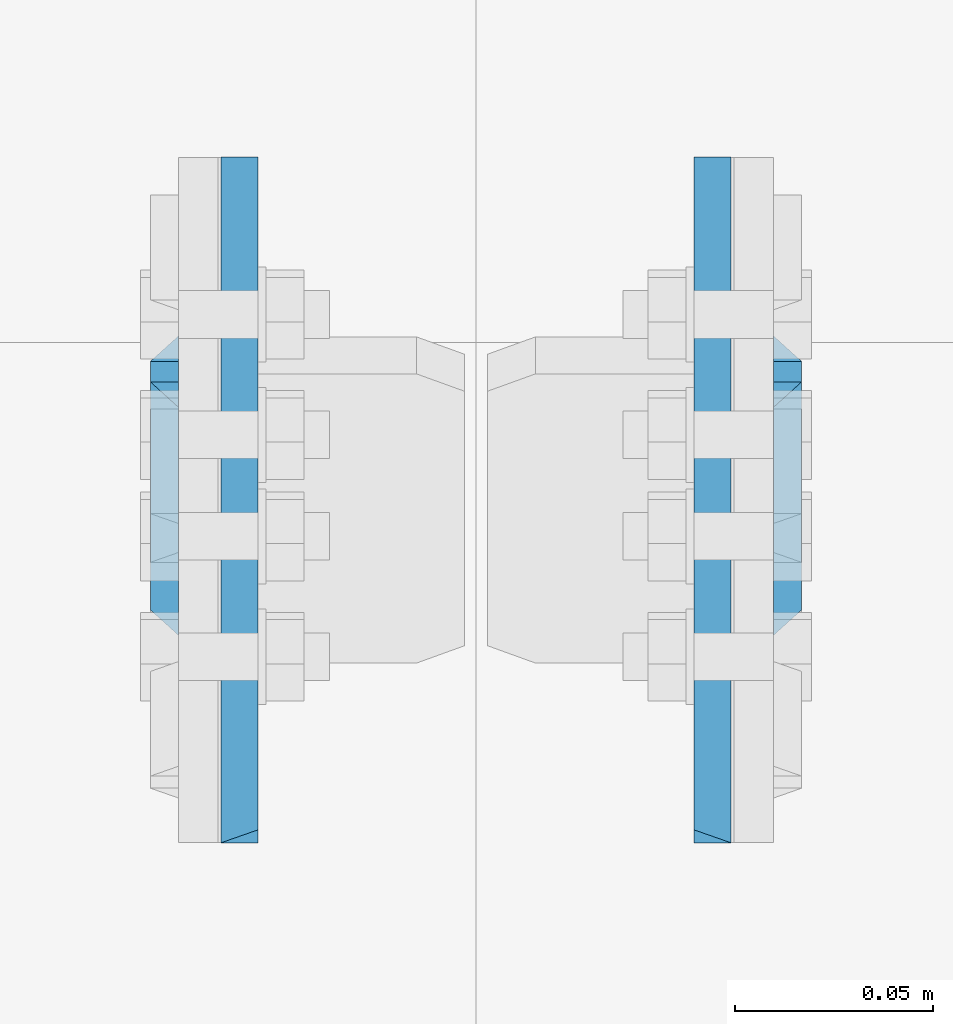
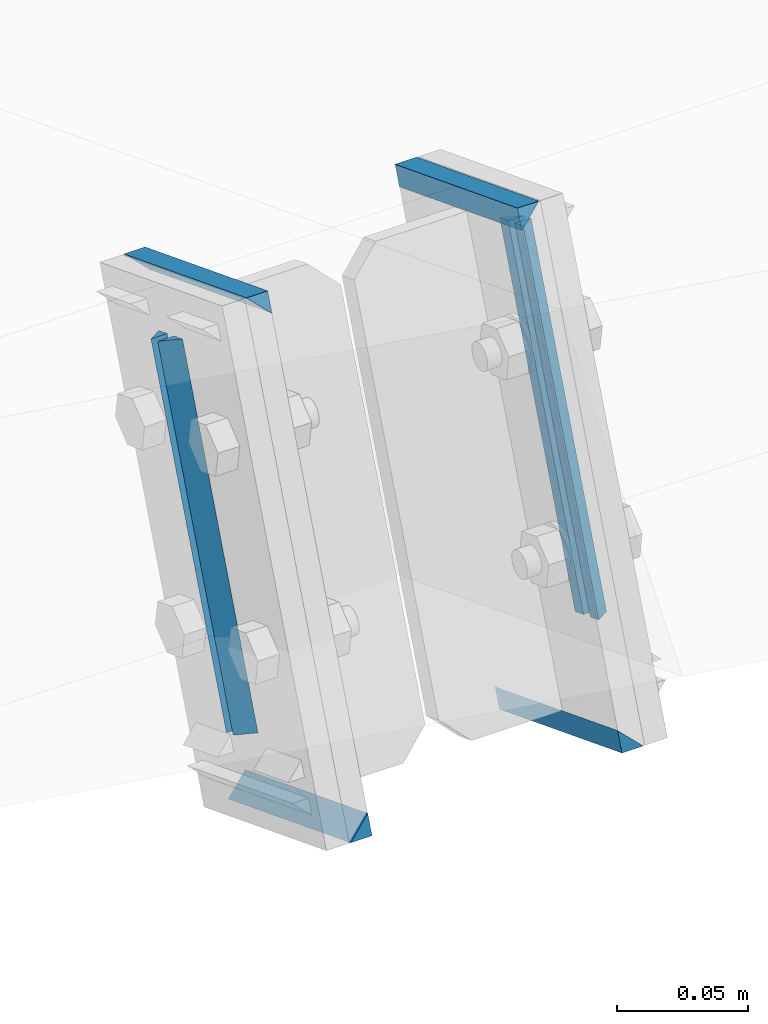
# One storey, part 17 of 72: 12 fasteners.
"""IFC4 building model written with IfcOpenShell, lengths in metres."""

from ifc_helpers import new_model, si_unit, frame, origin_with_axes, place, context, project, spatial, polyline, outline, extrude, type_object, element, save


model = new_model("IFC4")

# Units and contexts
model_context = context("Model", 3, precision=1e-05, world=origin_with_axes())
ifc_project = project(units=[si_unit("LENGTHUNIT", "METRE"), si_unit("AREAUNIT", "SQUARE_METRE"), si_unit("VOLUMEUNIT", "CUBIC_METRE"), si_unit("MASSUNIT", "GRAM", prefix="KILO"), si_unit("TIMEUNIT", "SECOND"), si_unit("PLANEANGLEUNIT", "RADIAN"), si_unit("SOLIDANGLEUNIT", "STERADIAN"), si_unit("THERMODYNAMICTEMPERATUREUNIT", "DEGREE_CELSIUS")], contexts=[model_context])

# Site, building, storey
placement_1 = place(None, origin_with_axes())
site = spatial("IfcSite", under=ifc_project, at=placement_1, Name="Italia", CompositionType="ELEMENT")
building = spatial("IfcBuilding", under=site, at=placement_1, Name="Uffici", CompositionType="ELEMENT")
storey = spatial("IfcBuildingStorey", under=building, at=placement_1, Name="Storey 0", CompositionType="ELEMENT", Elevation=0.0)

# Fasteners
fastener_type_1 = type_object("IfcFastenerType", Name="Collegamento -019_-018", PredefinedType="WELD")
placement_2 = place(placement_1, origin_with_axes())
fastener_1_placement = place(placement_2, origin_with_axes())
element("IfcFastener", 1, at=fastener_1_placement, inside=storey, type_object=fastener_type_1, Name="Collegamento -019_-018", context=model_context, shape_type="SweptSolid", body=[
    extrude(outline(polyline([(0.0, 0.0), (-0.00717354, 0.00695825), (0.0, 0.00695825), (0.0, 0.0)])), frame((9.38005, 3.26833, 5.95076), z_axis=(0.0, -0.361461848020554, -0.932386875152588), x_axis=(1.0, 0.0, 0.0)), (0.0, 0.0, 1.0), 0.1591),
])
fastener_type_2 = type_object("IfcFastenerType", Name="Collegamento -019_-018", PredefinedType="WELD")
fastener_2_placement = place(placement_2, origin_with_axes())
element("IfcFastener", 2, at=fastener_2_placement, inside=storey, type_object=fastener_type_2, Name="Collegamento -019_-018", context=model_context, shape_type="SweptSolid", body=[
    extrude(outline(polyline([(0.0, 0.0), (0.00717354, -0.00695825), (0.0, -0.00695825), (0.0, 0.0)])), frame((9.38005, 3.19271, 5.80943), z_axis=(0.0, 0.361460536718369, 0.932387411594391), x_axis=(-1.0, 0.0, 0.0)), (0.0, 0.0, 1.0), 0.1591),
])
fastener_type_3 = type_object("IfcFastenerType", Name="Collegamento -019_-018", PredefinedType="WELD")
fastener_3_placement = place(placement_2, origin_with_axes())
element("IfcFastener", 3, at=fastener_3_placement, inside=storey, type_object=fastener_type_3, Name="Collegamento -019_-018", context=model_context, shape_type="SweptSolid", body=[
    extrude(outline(polyline([(0.0, 0.0), (-0.00717354, 0.00695825), (0.0, 0.00695825), (0.0, 0.0)])), frame((9.38005, 3.26833, 5.95076), z_axis=(0.0, -0.361461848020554, -0.932386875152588), x_axis=(1.0, 0.0, 0.0)), (0.0, 0.0, 1.0), 0.1591),
])
fastener_type_4 = type_object("IfcFastenerType", Name="Collegamento -019_-018", PredefinedType="WELD")
fastener_4_placement = place(placement_2, origin_with_axes())
element("IfcFastener", 4, at=fastener_4_placement, inside=storey, type_object=fastener_type_4, Name="Collegamento -019_-018", context=model_context, shape_type="SweptSolid", body=[
    extrude(outline(polyline([(0.0, 0.0), (0.00717354, -0.00695825), (0.0, -0.00695825), (0.0, 0.0)])), frame((9.38005, 3.19271, 5.80943), z_axis=(0.0, 0.361460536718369, 0.932387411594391), x_axis=(-1.0, 0.0, 0.0)), (0.0, 0.0, 1.0), 0.1591),
])
fastener_type_5 = type_object("IfcFastenerType", Name="Collegamento -019_-018", PredefinedType="WELD")
fastener_5_placement = place(placement_2, origin_with_axes())
element("IfcFastener", 5, at=fastener_5_placement, inside=storey, type_object=fastener_type_5, Name="Collegamento -019_-018", context=model_context, shape_type="SweptSolid", body=[
    extrude(outline(polyline([(0.0, 0.0), (0.00937271, -0.00909233), (0.0, -0.00909233), (0.0, 0.0)])), frame((9.40005, 3.14375, 5.79473), z_axis=(0.0, 0.932386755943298, -0.36146205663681), x_axis=(-1.0, 0.0, 0.0)), (0.0, 0.0, 1.0), 0.1001),
])
fastener_type_6 = type_object("IfcFastenerType", Name="Collegamento -019_-018", PredefinedType="WELD")
fastener_6_placement = place(placement_2, origin_with_axes())
element("IfcFastener", 6, at=fastener_6_placement, inside=storey, type_object=fastener_type_6, Name="Collegamento -019_-018", context=model_context, shape_type="SweptSolid", body=[
    extrude(outline(polyline([(0.0, 0.0), (-0.00937271, 0.00909185), (0.0, 0.00909185), (0.0, 0.0)])), frame((9.40005, 3.31006, 5.94681), z_axis=(0.0, -0.932386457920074, 0.361462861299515), x_axis=(1.0, 0.0, 0.0)), (0.0, 0.0, 1.0), 0.1001),
])
fastener_type_7 = type_object("IfcFastenerType", Name="Collegamento -019_-020", PredefinedType="WELD")
fastener_7_placement = place(placement_2, origin_with_axes())
element("IfcFastener", 7, at=fastener_7_placement, inside=storey, type_object=fastener_type_7, Name="Collegamento -019_-020", context=model_context, shape_type="SweptSolid", body=[
    extrude(outline(polyline([(0.0, 0.0), (-0.00717354, 0.00695801), (0.0, 0.00695801), (0.0, 0.0)])), frame((9.52995, 3.21082, 5.80241), z_axis=(0.0, 0.361461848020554, 0.932386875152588), x_axis=(-1.0, 0.0, 0.0)), (0.0, 0.0, 1.0), 0.1591),
])
fastener_type_8 = type_object("IfcFastenerType", Name="Collegamento -019_-020", PredefinedType="WELD")
fastener_8_placement = place(placement_2, origin_with_axes())
element("IfcFastener", 8, at=fastener_8_placement, inside=storey, type_object=fastener_type_8, Name="Collegamento -019_-020", context=model_context, shape_type="SweptSolid", body=[
    extrude(outline(polyline([(0.0, 0.0), (0.00717354, -0.00695777), (0.0, -0.00695777), (0.0, 0.0)])), frame((9.52995, 3.25022, 5.95777), z_axis=(0.0, -0.361460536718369, -0.932387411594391), x_axis=(1.0, 0.0, 0.0)), (0.0, 0.0, 1.0), 0.1591),
])
fastener_type_9 = type_object("IfcFastenerType", Name="Collegamento -019_-020", PredefinedType="WELD")
fastener_9_placement = place(placement_2, origin_with_axes())
element("IfcFastener", 9, at=fastener_9_placement, inside=storey, type_object=fastener_type_9, Name="Collegamento -019_-020", context=model_context, shape_type="SweptSolid", body=[
    extrude(outline(polyline([(0.0, 0.0), (-0.00717354, 0.00695801), (0.0, 0.00695801), (0.0, 0.0)])), frame((9.52995, 3.21082, 5.80241), z_axis=(0.0, 0.361461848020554, 0.932386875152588), x_axis=(-1.0, 0.0, 0.0)), (0.0, 0.0, 1.0), 0.1591),
])
fastener_type_10 = type_object("IfcFastenerType", Name="Collegamento -019_-020", PredefinedType="WELD")
fastener_10_placement = place(placement_2, origin_with_axes())
element("IfcFastener", 10, at=fastener_10_placement, inside=storey, type_object=fastener_type_10, Name="Collegamento -019_-020", context=model_context, shape_type="SweptSolid", body=[
    extrude(outline(polyline([(0.0, 0.0), (0.00717354, -0.00695777), (0.0, -0.00695777), (0.0, 0.0)])), frame((9.52995, 3.25022, 5.95777), z_axis=(0.0, -0.361460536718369, -0.932387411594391), x_axis=(1.0, 0.0, 0.0)), (0.0, 0.0, 1.0), 0.1591),
])
fastener_type_11 = type_object("IfcFastenerType", Name="Collegamento -019_-020", PredefinedType="WELD")
fastener_11_placement = place(placement_2, origin_with_axes())
element("IfcFastener", 11, at=fastener_11_placement, inside=storey, type_object=fastener_type_11, Name="Collegamento -019_-020", context=model_context, shape_type="SweptSolid", body=[
    extrude(outline(polyline([(0.0, 0.0), (0.00937271, -0.00909233), (0.0, -0.00909233), (0.0, 0.0)])), frame((9.50995, 3.23708, 5.75855), z_axis=(0.0, -0.932386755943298, 0.36146205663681), x_axis=(1.0, 0.0, 0.0)), (0.0, 0.0, 1.0), 0.1001),
])
fastener_type_12 = type_object("IfcFastenerType", Name="Collegamento -019_-020", PredefinedType="WELD")
fastener_12_placement = place(placement_2, origin_with_axes())
element("IfcFastener", 12, at=fastener_12_placement, inside=storey, type_object=fastener_type_12, Name="Collegamento -019_-020", context=model_context, shape_type="SweptSolid", body=[
    extrude(outline(polyline([(0.0, 0.0), (-0.00937271, 0.00909233), (0.0, 0.00909233), (0.0, 0.0)])), frame((9.50995, 3.21673, 5.98299), z_axis=(0.0, 0.932386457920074, -0.361462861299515), x_axis=(-1.0, 0.0, 0.0)), (0.0, 0.0, 1.0), 0.1001),
])

save(model, "model.ifc")
